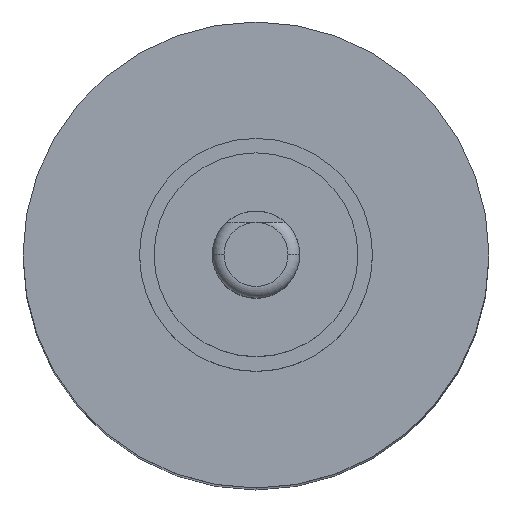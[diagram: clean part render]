
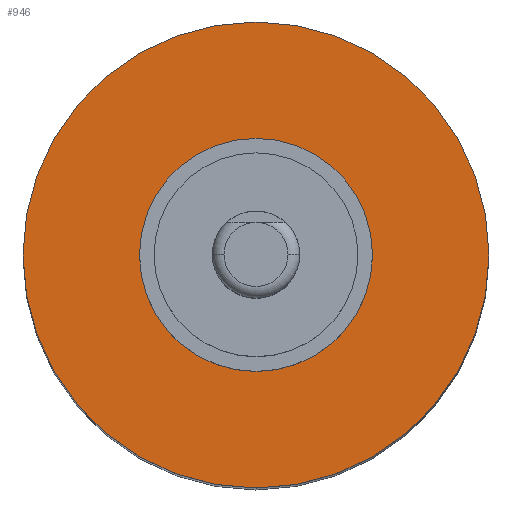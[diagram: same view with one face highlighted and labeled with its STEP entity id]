
A CAD part, top view. The second image highlights one B-rep face of the part: STEP entity #946.
In plain terms, the highlighted planar face has unit normal (0, 0, 1).
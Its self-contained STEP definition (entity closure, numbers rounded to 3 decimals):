
#13 = EDGE_CURVE ( 'NONE', #255, #803, #610, .T. ) ;
#23 = AXIS2_PLACEMENT_3D ( 'NONE', #566, #493, #45 ) ;
#45 = DIRECTION ( 'NONE',  ( 0., -1., 0. ) ) ;
#59 = DIRECTION ( 'NONE',  ( 0., 0., 1. ) ) ;
#63 = CARTESIAN_POINT ( 'NONE',  ( 0., 0., -6. ) ) ;
#88 = EDGE_LOOP ( 'NONE', ( #456, #602 ) ) ;
#255 = VERTEX_POINT ( 'NONE', #365 ) ;
#283 = FACE_OUTER_BOUND ( 'NONE', #88, .T. ) ;
#318 = DIRECTION ( 'NONE',  ( 0., 0., 1. ) ) ;
#362 = DIRECTION ( 'NONE',  ( 0., -1., 0. ) ) ;
#365 = CARTESIAN_POINT ( 'NONE',  ( 0., -4., -6. ) ) ;
#396 = DIRECTION ( 'NONE',  ( 0., -1., 0. ) ) ;
#404 = EDGE_CURVE ( 'NONE', #803, #255, #739, .T. ) ;
#417 = CARTESIAN_POINT ( 'NONE',  ( 0., 4., -6. ) ) ;
#442 = PLANE ( 'NONE',  #709 ) ;
#456 = ORIENTED_EDGE ( 'NONE', *, *, #13, .T. ) ;
#493 = DIRECTION ( 'NONE',  ( 0., 0., 1. ) ) ;
#566 = CARTESIAN_POINT ( 'NONE',  ( 0., 0., -6. ) ) ;
#602 = ORIENTED_EDGE ( 'NONE', *, *, #404, .T. ) ;
#610 = CIRCLE ( 'NONE', #23, 4. ) ;
#625 = AXIS2_PLACEMENT_3D ( 'NONE', #853, #318, #396 ) ;
#709 = AXIS2_PLACEMENT_3D ( 'NONE', #63, #59, #362 ) ;
#739 = CIRCLE ( 'NONE', #625, 4. ) ;
#803 = VERTEX_POINT ( 'NONE', #417 ) ;
#853 = CARTESIAN_POINT ( 'NONE',  ( 0., 0., -6. ) ) ;
#946 = ADVANCED_FACE ( 'NONE', ( #283 ), #442, .T. ) ;
